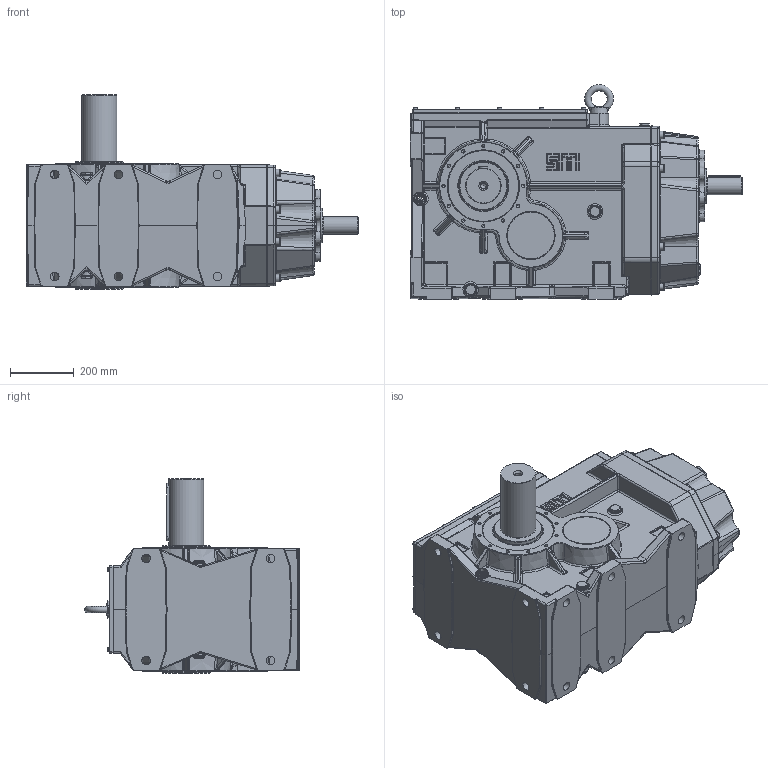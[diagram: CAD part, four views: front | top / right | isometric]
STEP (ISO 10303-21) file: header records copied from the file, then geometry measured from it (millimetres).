
FILE_DESCRIPTION((''),'2;1');
FILE_NAME('O:\Figurini\Figurini BH\3D\200\BH 200 MS-B.stp','2013-05-27T12:07:41',('d.iannaccio'),(''),'Autodesk Inventor 2012','Autodesk Inventor 2012','');
FILE_SCHEMA(('AUTOMOTIVE_DESIGN { 1 0 10303 214 1 1 1 1 }'));
Length unit declared in the file: millimetre
Products named in the file (1): BH_200 MS-B
Bounding box: 1040.5 x 673 x 610 mm (x, y, z)
Volume: 55848750.5 mm3; surface area: 5006706 mm2
Topology: 2 solids, 50 shells, 3526 faces, 8355 edges, 4956 vertices
Faces by surface type: cylinder 1120, plane 982, bspline 647, torus 364, cone 250, sphere 163
Full cylindrical faces by diameter (mm): 2.4 x1, 6.647 x12, 8 x24, 9 x12, 10 x18, 10.106 x26, 10.5 x2, 13 x12, 13.75 x1, 13.835 x9, 16 x8, 17 x10, 17.25 x2, 18 x1, 19.6 x1, 20 x4, 20.752 x2, 21 x2, 24 x8, 24.117 x8, 26.5 x2, 27 x10, 31 x7, 31.9 x1, 40 x1, 45 x1, 55 x1, 62 x1, 64.4 x1, 65 x2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
Entity records: 122805 total; most frequent: CARTESIAN_POINT 44746, DIRECTION 15251, ORIENTED_EDGE 15010, EDGE_CURVE 7505, AXIS2_PLACEMENT_3D 6243, VERTEX_POINT 4702, EDGE_LOOP 4244, STYLED_ITEM 3527
